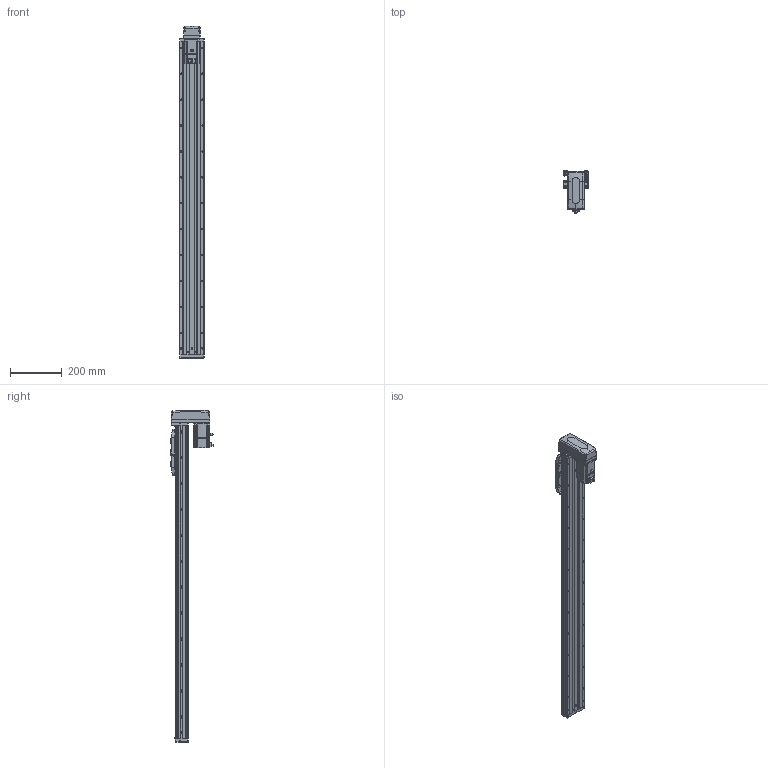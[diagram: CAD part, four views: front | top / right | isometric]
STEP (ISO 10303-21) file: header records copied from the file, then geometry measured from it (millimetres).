
FILE_DESCRIPTION (( 'STEP AP203' ), '1' );
FILE_NAME ('CTHA100-1000-BM-M20-C4L.step', '2022-07-06T09:02:35', ( '微软用户' ), ( '微软中国' ), 'SwSTEP 2.0', 'SolidWorks 2020', '' );
FILE_SCHEMA (( 'CONFIG_CONTROL_DESIGN' ));
Length unit declared in the file: millimetre
Products named in the file (19): CTHA86-033; EE_SX911P_R; _X2_4E0983F1_X0_200W_1; CTHA100-1000-BM-M20-C4L; CTHA60-017; CTHA100-002; CTHA60-021; CTHA100-031; KTHA100-001_1210; GBT77-2000 M3×3; CTHA86-030; KTHA100-004; GBT 70.1-M3℅6; GBT 70.3-M3℅6; KTHA100-005; GBT70.1 M5℅16; CTHA86-015-1_CTHA86-015-2; GB¨uT 70.2-M3¡Á5_M3¡Á6; CTHA60-016
Assembly tree (64 placements, depth 2):
  CTHA100-1000-BM-M20-C4L
    KTHA100-001_1210
    KTHA100-004
    KTHA100-005
    GB¨uT 70.2-M3¡Á5_M3¡Á6  x10
    EE_SX911P_R  x3
    CTHA60-017  x3
    CTHA60-021  x2
    GBT77-2000 M3×3  x6
    GBT 70.1-M3℅6  x10
    GBT70.1 M5℅16  x14
    CTHA60-016  x2
    _X2_4E0983F1_X0_200W_1
    CTHA100-002
    CTHA100-031
    CTHA86-030  x2
    GBT 70.3-M3℅6  x4
    CTHA86-015-1_CTHA86-015-2
    CTHA86-033
Bounding box: 98.82 x 163.2 x 1281 mm (x, y, z)
Volume: 5080246 mm3; surface area: 839145.2 mm2
Topology: 66 solids, 66 shells, 2769 faces, 6695 edges, 4156 vertices
Faces by surface type: plane 1452, cylinder 731, cone 363, torus 124, bspline 75, sphere 24
Entity records: 49222 total; most frequent: CARTESIAN_POINT 9595, DIRECTION 7644, ORIENTED_EDGE 7506, EDGE_CURVE 3753, AXIS2_PLACEMENT_3D 2577, LINE 2490, VECTOR 2490, VERTEX_POINT 2376
